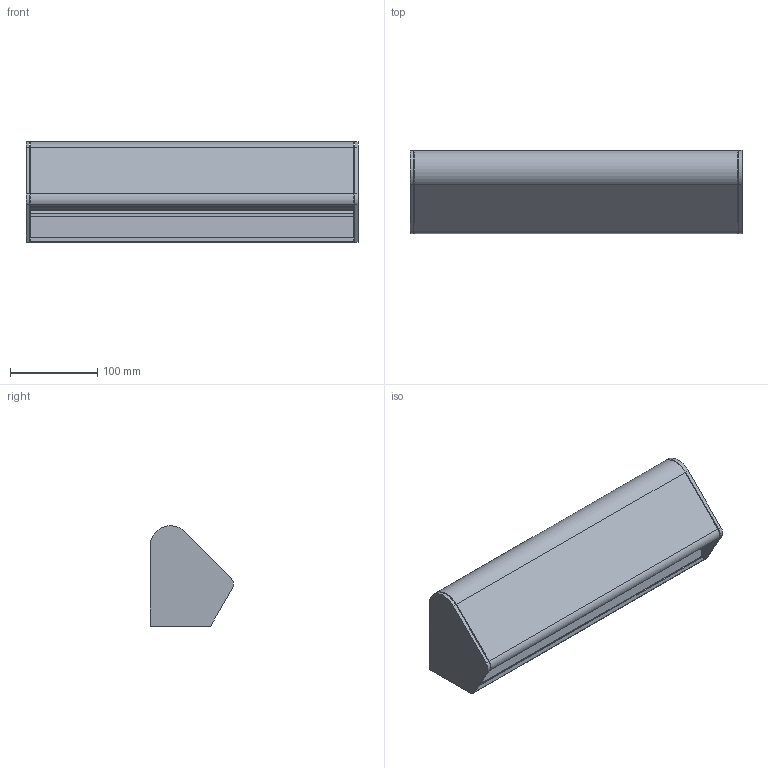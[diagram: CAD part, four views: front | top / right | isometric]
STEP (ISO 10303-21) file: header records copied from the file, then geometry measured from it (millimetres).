
FILE_DESCRIPTION (( 'STEP AP203' ), '1' );
FILE_NAME ('GILLES L - 3D WEB.STEP', '2022-12-30T10:53:48', ( '' ), ( '' ), 'SwSTEP 2.0', 'SolidWorks 2014', '' );
FILE_SCHEMA (( 'CONFIG_CONTROL_DESIGN' ));
Length unit declared in the file: millimetre
Products named in the file (1): GILLES L - 3D WEB
Bounding box: 380 x 95 x 114.95 mm (x, y, z)
Volume: 2613431 mm3; surface area: 316542.5 mm2
Topology: 7 solids, 7 shells, 142 faces, 384 edges, 256 vertices
Faces by surface type: plane 82, cylinder 60
Entity records: 4553 total; most frequent: DIRECTION 790, CARTESIAN_POINT 783, ORIENTED_EDGE 768, EDGE_CURVE 384, LINE 264, VECTOR 264, AXIS2_PLACEMENT_3D 263, VERTEX_POINT 256
